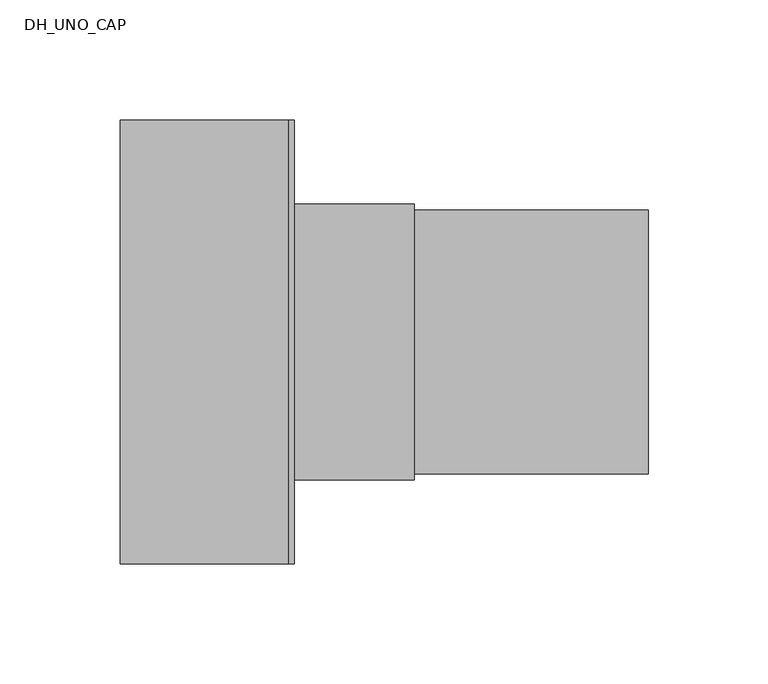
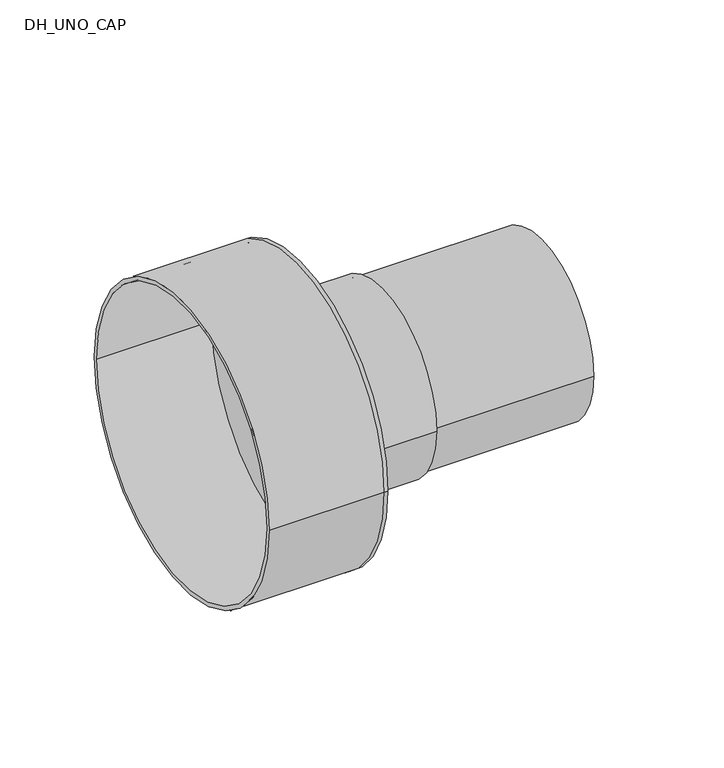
"""IFC4 building model written with IfcOpenShell, lengths in millimetres: pipe fitting geometry, DH_UNO_CAP : INSULPEX UNO + 11 COOL - Rubber Cap."""

from ifc_helpers import new_model, si_unit, point, frame, origin, origin_2d, place, context, project, spatial, polyline, circle_curve, trimmed, segment, composite_curve, outline, extrude, source, transform, mapped, element, save
from ifc_brep_helpers import plane_surface, cylinder_surface, revolved_surface, advanced_brep


def dh_uno_cap_73bbd93a(model_context):
    return source(origin(), model_context, "Body", "SolidModel", [
        extrude(outline(composite_curve([segment(trimmed(circle_curve(origin_2d(), 55.0), [point((-55.0, 0.0))], [point((55.0, 0.0))], False, "CARTESIAN"), True, "CONTINUOUS"), segment(trimmed(circle_curve(origin_2d(), 55.0), [point((55.0, 0.0))], [point((-55.0, 0.0))], False, "CARTESIAN"), True, "CONTINUOUS")], self_intersect=False), holes=[composite_curve([segment(trimmed(circle_curve(origin_2d(), 45.0), [point((-45.0, 0.0))], [point((45.0, 0.0))], True, "CARTESIAN"), True, "CONTINUOUS"), segment(trimmed(circle_curve(origin_2d(), 45.0), [point((45.0, 0.0))], [point((-45.0, 0.0))], True, "CARTESIAN"), True, "CONTINUOUS")], self_intersect=False)]), frame((0.0, 0.0, 0.0), z_axis=(1.0, 0.0, 0.0), x_axis=(0.0, 1.0, 0.0)), (0.0, 0.0, 1.0), 150.0),
        advanced_brep(
        [(-70.0, -92.5, 0.0), (-70.0, 92.5, 0.0), (-70.0, -90.0, 0.0), (-70.0, 90.0, 0.0), (0.0, -90.0, 0.0), (0.0, 90.0, 0.0), (0.0, -92.5, 0.0), (0.0, 92.5, 0.0), (0.0, 55.0, 0.0), (0.0, -55.0, 0.0), (2.5, -92.5, 0.0), (2.5, 92.5, 0.0), (2.5, -55.0, 0.0), (2.5, 55.0, 0.0)],
        [
            (0, 1, circle_curve(frame((-70.0, 0.0, 0.0), z_axis=(-1.0, 0.0, 0.0), x_axis=(0.0, 1.0, 0.0)), 92.5)),
            (1, 0, circle_curve(frame((-70.0, 0.0, 0.0), z_axis=(-1.0, 0.0, 0.0), x_axis=(0.0, 1.0, 0.0)), 92.5)),
            (2, 3, circle_curve(frame((-70.0, 0.0, 0.0), z_axis=(1.0, 0.0, 0.0), x_axis=(0.0, 1.0, 0.0)), 90.0)),
            (3, 2, circle_curve(frame((-70.0, 0.0, 0.0), z_axis=(1.0, 0.0, 0.0), x_axis=(0.0, 1.0, 0.0)), 90.0)),
            (2, 4),
            (4, 5, circle_curve(frame((0.0, 0.0, 0.0), z_axis=(1.0, 0.0, 0.0), x_axis=(0.0, 1.0, 0.0)), 90.0)),
            (5, 3),
            (5, 4, circle_curve(frame((0.0, 0.0, 0.0), z_axis=(1.0, 0.0, 0.0), x_axis=(0.0, 1.0, 0.0)), 90.0)),
            (0, 6),
            (6, 7, circle_curve(frame((0.0, 0.0, 0.0), z_axis=(-1.0, 0.0, 0.0), x_axis=(0.0, 1.0, 0.0)), 92.5)),
            (7, 1),
            (7, 6, circle_curve(frame((0.0, 0.0, 0.0), z_axis=(-1.0, 0.0, 0.0), x_axis=(0.0, 1.0, 0.0)), 92.5)),
            (8, 9, circle_curve(frame((0.0, 0.0, 0.0), z_axis=(1.0, 0.0, 0.0), x_axis=(0.0, 1.0, 0.0)), 55.0)),
            (9, 8, circle_curve(frame((0.0, 0.0, 0.0), z_axis=(1.0, 0.0, 0.0), x_axis=(0.0, 1.0, 0.0)), 55.0)),
            (10, 11, circle_curve(frame((2.5, 0.0, 0.0), z_axis=(1.0, 0.0, 0.0), x_axis=(0.0, 1.0, 0.0)), 92.5)),
            (11, 10, circle_curve(frame((2.5, 0.0, 0.0), z_axis=(1.0, 0.0, 0.0), x_axis=(0.0, 1.0, 0.0)), 92.5)),
            (12, 13, circle_curve(frame((2.5, 0.0, 0.0), z_axis=(-1.0, 0.0, 0.0), x_axis=(0.0, 1.0, 0.0)), 55.0)),
            (13, 12, circle_curve(frame((2.5, 0.0, 0.0), z_axis=(-1.0, 0.0, 0.0), x_axis=(0.0, 1.0, 0.0)), 55.0)),
            (11, 7),
            (6, 10),
            (8, 13),
            (12, 9),
        ],
        [
            plane_surface(frame((-70.0, 0.0, 0.0), z_axis=(-1.0, 0.0, 0.0), x_axis=(0.0, 0.0, 1.0))),
            revolved_surface(polyline([(0.0, 90.0, 0.0), (-70.0, 90.0, 0.0)]), (-70.0, 0.0, 0.0), (1.0, 0.0, 0.0)),
            cylinder_surface(frame((-70.0, 0.0, 0.0), z_axis=(-1.0, 0.0, 0.0), x_axis=(0.0, 1.0, 0.0)), 92.5),
            plane_surface(frame((0.0, 0.0, 0.0), z_axis=(-1.0, 0.0, 0.0), x_axis=(0.0, 0.0, 1.0))),
            plane_surface(frame((2.5, 0.0, 0.0), z_axis=(1.0, 0.0, 0.0), x_axis=(0.0, 0.0, 1.0))),
            cylinder_surface(frame((0.0, 0.0, 0.0), z_axis=(-1.0, 0.0, 0.0), x_axis=(0.0, 1.0, 0.0)), 92.5),
            revolved_surface(polyline([(0.0, 55.0, 0.0), (2.5, 55.0, 0.0)]), (0.0, 0.0, 0.0), (-1.0, 0.0, 0.0)),
        ],
        [
            (0, [[1, 2], [3, 4]]),
            (1, [[-3, 5, 6, 7]]),
            (1, [[-4, -7, 8, -5]]),
            (2, [[-1, 9, 10, 11]]),
            (2, [[-2, -11, 12, -9]]),
            (3, [[-6, -8], [13, 14]]),
            (4, [[15, 16], [17, 18]]),
            (5, [[-16, 19, -10, 20]]),
            (5, [[-15, -20, -12, -19]]),
            (6, [[21, -17, 22, -13]]),
            (6, [[-21, -14, -22, -18]]),
        ],
    ),
        extrude(outline(composite_curve([segment(trimmed(circle_curve(origin_2d(), 57.5), [point((-57.5, 0.0))], [point((57.5, 0.0))], False, "CARTESIAN"), True, "CONTINUOUS"), segment(trimmed(circle_curve(origin_2d(), 57.5), [point((57.5, 0.0))], [point((-57.5, 0.0))], False, "CARTESIAN"), True, "CONTINUOUS")], self_intersect=False), holes=[composite_curve([segment(trimmed(circle_curve(origin_2d(), 55.0), [point((-55.0, 0.0))], [point((55.0, 0.0))], True, "CARTESIAN"), True, "CONTINUOUS"), segment(trimmed(circle_curve(origin_2d(), 55.0), [point((55.0, 0.0))], [point((-55.0, 0.0))], True, "CARTESIAN"), True, "CONTINUOUS")], self_intersect=False)]), frame((2.5, 0.0, 0.0), z_axis=(1.0, 0.0, 0.0), x_axis=(0.0, 1.0, 0.0)), (0.0, 0.0, 1.0), 50.0),
    ])


if __name__ == "__main__":
    model = new_model("IFC4")
    model_context = context("Model", 3, world=origin())
    ifc_project = project(units=[si_unit("LENGTHUNIT", "METRE", prefix="MILLI")], contexts=[model_context])
    site = spatial("IfcSite", under=ifc_project)
    building = spatial("IfcBuilding", under=site)
    placement = place(None, origin())
    dh_uno_cap_shape = dh_uno_cap_73bbd93a(model_context)
    element("IfcPipeFitting", 1, ObjectType="DH_UNO_CAP : INSULPEX UNO + 11 COOL - Rubber Cap", at=placement, inside=building, context=model_context, shape_type="MappedRepresentation", body=[
        mapped(dh_uno_cap_shape, transform((0.0, 0.0, 0.0), x_axis=(1.0, 0.0, 0.0), y_axis=(0.0, 1.0, 0.0), z_axis=(0.0, 0.0, 1.0))),
    ])
    save(model, "model.ifc")
